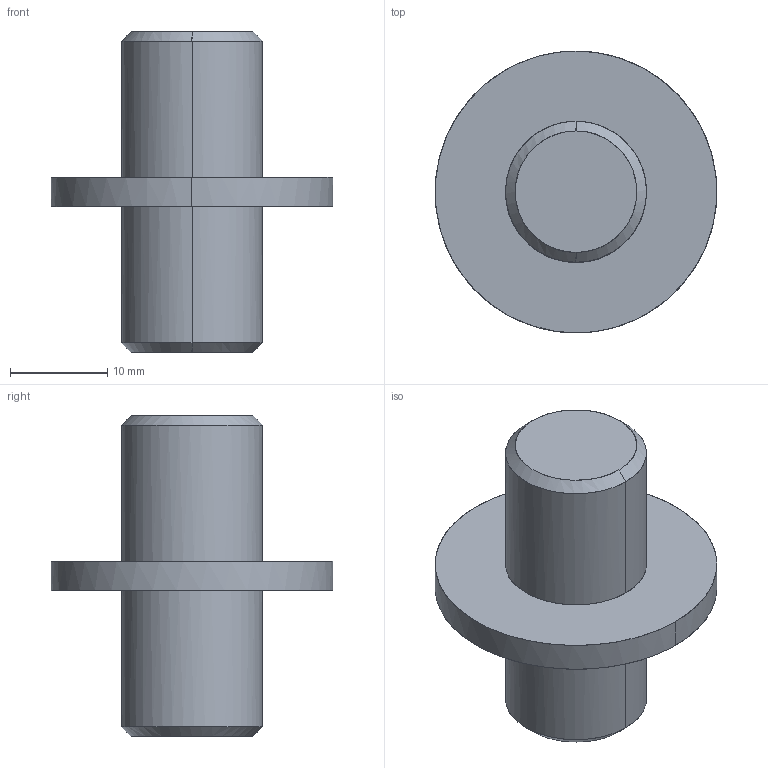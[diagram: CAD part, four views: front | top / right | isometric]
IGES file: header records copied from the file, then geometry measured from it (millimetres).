
Global section: file name: E:\UnigraphicsGraphicData\MISUMI_PRESS-PARTS\IGES\3d_sswc29_00826_r00.igs; native system: NX V5.0; preprocessor: UGS NX IGES V5.0; author: MISUMI; date: 20110105.163201; units: millimetre
Bounding box: 29 x 29 x 33 mm (x, y, z)
Surface area: 2905 mm2 (no closed solid volume)
Topology: 0 solids, 0 shells, 14 faces, 104 edges, 104 vertices
Faces by surface type: bspline 14
